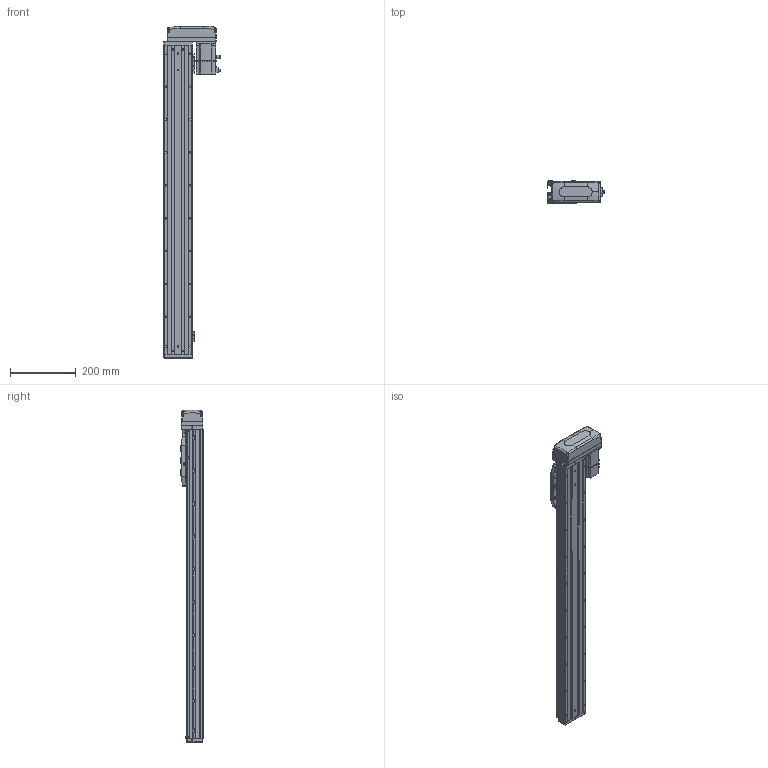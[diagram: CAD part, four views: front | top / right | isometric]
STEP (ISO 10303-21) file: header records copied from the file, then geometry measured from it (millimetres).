
FILE_DESCRIPTION (( 'STEP AP203' ), '1' );
FILE_NAME ('CTHA86-750-BL-M20-C4L.step', '2022-04-26T00:52:23', ( '微软用户' ), ( '微软中国' ), 'SwSTEP 2.0', 'SolidWorks 2020', '' );
FILE_SCHEMA (( 'CONFIG_CONTROL_DESIGN' ));
Length unit declared in the file: millimetre
Products named in the file (21): GBT 70.1-M3℅6; CTHA86-015-1_CTHA86-015-2; CTHA60-017; CTHA60-016; CTHA86-033; CTHA60-021; _X2_4E0983F1_X0_200W_1; CTHA86-750-BL-M20-C4L; KTHA86-001_940; GBT77-2000 M3×3; CTHA86-002; KTHA86-004; GBT 70.1-M3×20; CTHA86-031; KTHA86-005; GBT70.1 M5℅16; CTHA86-030; GB¨uT 70.2-M3¡Á5_M3¡Á6; GBT 70.1-M3×16; GBT 70.3-M3℅6; EE_SX911P_R
Assembly tree (66 placements, depth 2):
  CTHA86-750-BL-M20-C4L
    KTHA86-001_940
    KTHA86-004
    KTHA86-005
    GB¨uT 70.2-M3¡Á5_M3¡Á6  x10
    EE_SX911P_R  x3
    CTHA60-017  x3
    CTHA60-021  x2
    GBT77-2000 M3×3  x6
    GBT 70.1-M3×20
    GBT70.1 M5℅16  x14
    GBT 70.1-M3×16  x5
    GBT 70.1-M3℅6  x6
    CTHA60-016  x2
    _X2_4E0983F1_X0_200W_1
    CTHA86-002
    CTHA86-031
    CTHA86-030  x2
    GBT 70.3-M3℅6  x4
    CTHA86-015-1_CTHA86-015-2
    CTHA86-033
Bounding box: 172.7 x 68 x 1009 mm (x, y, z)
Volume: 3885847 mm3; surface area: 667448.7 mm2
Topology: 68 solids, 68 shells, 2806 faces, 6708 edges, 4132 vertices
Faces by surface type: plane 1475, cylinder 729, cone 371, torus 132, bspline 75, sphere 24
Entity records: 49727 total; most frequent: CARTESIAN_POINT 9619, DIRECTION 7739, ORIENTED_EDGE 7516, EDGE_CURVE 3758, AXIS2_PLACEMENT_3D 2636, VECTOR 2467, LINE 2467, VERTEX_POINT 2364
